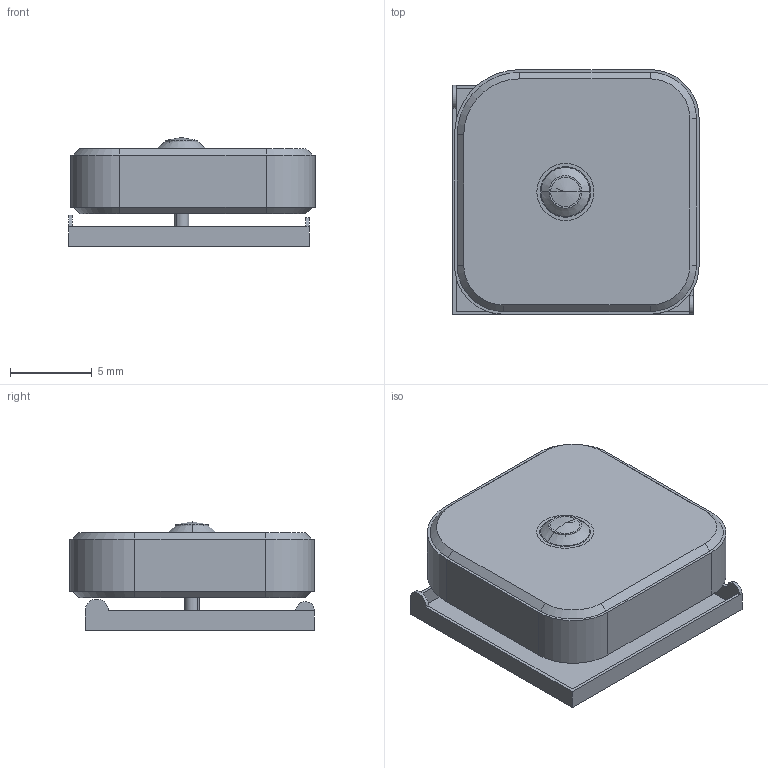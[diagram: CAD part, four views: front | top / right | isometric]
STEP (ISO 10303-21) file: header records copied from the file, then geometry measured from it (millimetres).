
FILE_DESCRIPTION((''),'2;1');
FILE_NAME('GBSA-100A_ASM','2008-06-30T',('GRA'),(''),'PRO/ENGINEER BY PARAMETRIC TECHNOLOGY CORPORATION, 2006170','PRO/ENGINEER BY PARAMETRIC TECHNOLOGY CORPORATION, 2006170','');
FILE_SCHEMA(('CONFIG_CONTROL_DESIGN'));
Length unit declared in the file: millimetre
Products named in the file (6): ANTENNA_PCB_COVER_ANY_PRT; _V_L_ANY_PRT; PATCH_DA15_ANY_PRT; GBSA-100A_ANY_ASM; _GBSA-100A_PRT; GBSA-100A_ASM
Assembly tree (5 placements, depth 3):
  GBSA-100A_ASM
    GBSA-100A_ANY_ASM
      ANTENNA_PCB_COVER_ANY_PRT
      _V_L_ANY_PRT
      PATCH_DA15_ANY_PRT
    _GBSA-100A_PRT
Bounding box: 15.1 x 15 x 6.67 mm (x, y, z)
Volume: 899.3 mm3; surface area: 1161.2 mm2
Topology: 3 solids, 3 shells, 74 faces, 176 edges, 114 vertices
Faces by surface type: plane 42, cylinder 18, cone 14
Entity records: 2293 total; most frequent: DIRECTION 408, CARTESIAN_POINT 376, ORIENTED_EDGE 348, EDGE_CURVE 174, AXIS2_PLACEMENT_3D 146, VECTOR 116, LINE 116, VERTEX_POINT 114
